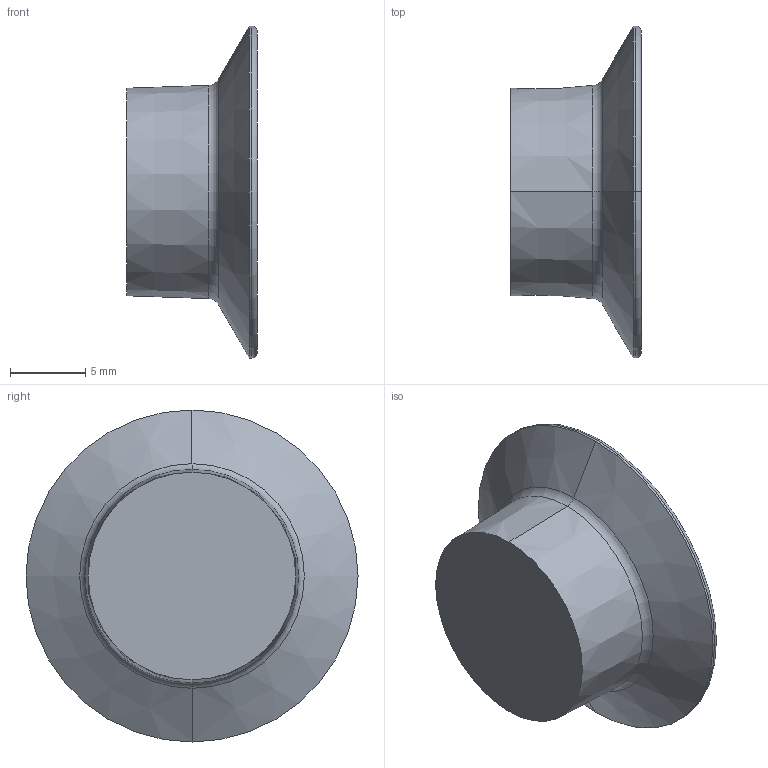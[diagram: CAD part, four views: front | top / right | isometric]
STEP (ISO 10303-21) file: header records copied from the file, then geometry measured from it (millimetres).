
FILE_DESCRIPTION (( 'STEP AP203' ), '1' );
FILE_NAME ('XP-F20-PUBLIC.STEP', '2011-02-03T16:05:43', ( '' ), ( '' ), 'SwSTEP 2.0', 'SolidWorks 2011', '' );
FILE_SCHEMA (( 'CONFIG_CONTROL_DESIGN' ));
Length unit declared in the file: inch
Products named in the file (1): XP-F20-PUBLIC
Bounding box: 8.7 x 22.1 x 22.1 mm (x, y, z)
Volume: 1712.1 mm3; surface area: 1074.9 mm2
Topology: 1 solids, 1 shells, 12 faces, 22 edges, 12 vertices
Faces by surface type: torus 4, cone 4, cylinder 2, plane 2
Entity records: 377 total; most frequent: DIRECTION 64, CARTESIAN_POINT 47, ORIENTED_EDGE 44, AXIS2_PLACEMENT_3D 29, EDGE_CURVE 22, CIRCLE 16, VERTEX_POINT 12, EDGE_LOOP 12
